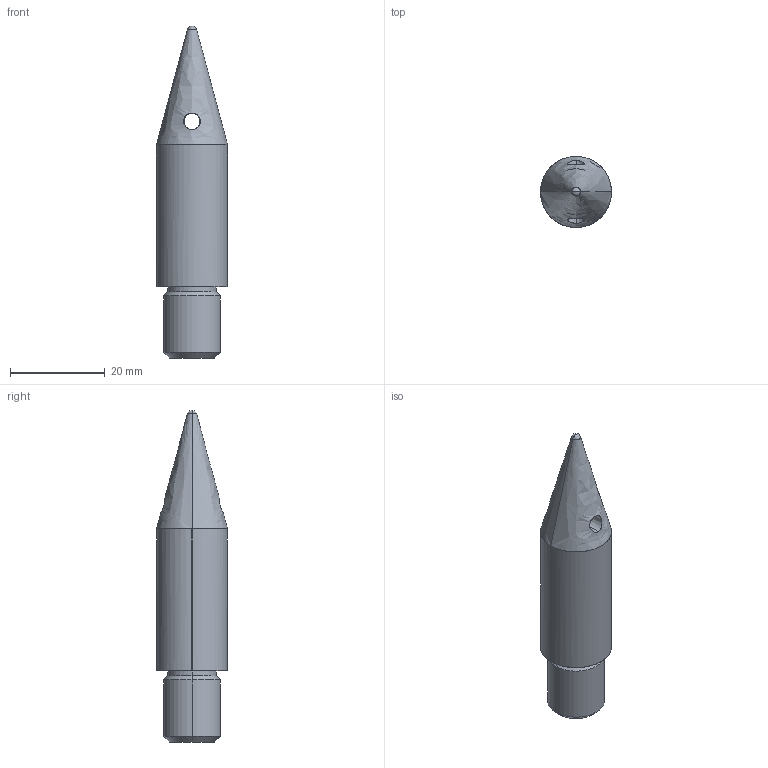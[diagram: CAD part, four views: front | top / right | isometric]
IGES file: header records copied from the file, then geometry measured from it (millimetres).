
Global section: file name: E:\UnigraphicsGraphicData\MISUMI_PRESS-PARTS\IGES\3d_sltlh16-p15.00-b30_02954_r00.igs; native system: NX V5.0; preprocessor: UGS NX IGES V5.0; author: MISUMI; date: 20110105.162834; units: millimetre
Bounding box: 15 x 14.97 x 70.13 mm (x, y, z)
Surface area: 2950.2 mm2 (no closed solid volume)
Topology: 0 solids, 0 shells, 20 faces, 122 edges, 120 vertices
Faces by surface type: bspline 20
